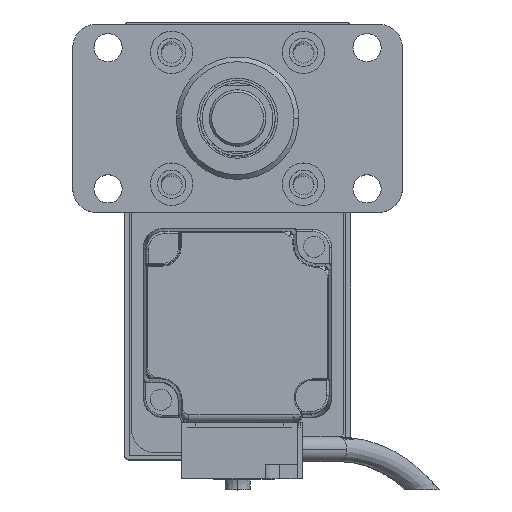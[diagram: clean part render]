
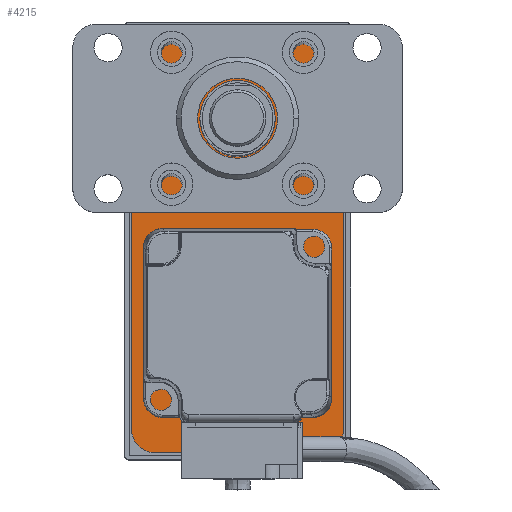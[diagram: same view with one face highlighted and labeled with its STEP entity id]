
A CAD part, top view. The second image highlights one B-rep face of the part: STEP entity #4215.
In plain terms, the highlighted planar face has unit normal (0, 0, 1).
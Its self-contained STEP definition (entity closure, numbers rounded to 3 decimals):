
#320 = ORIENTED_EDGE ( 'NONE', *, *, #24826, .T. ) ;
#420 = DIRECTION ( 'NONE',  ( 1., 0., 0. ) ) ;
#606 = LINE ( 'NONE', #11649, #11813 ) ;
#861 = VERTEX_POINT ( 'NONE', #15299 ) ;
#1416 = DIRECTION ( 'NONE',  ( -1., 0., 0. ) ) ;
#1513 = DIRECTION ( 'NONE',  ( 1., 0., 0. ) ) ;
#2352 = VERTEX_POINT ( 'NONE', #15862 ) ;
#3013 = EDGE_CURVE ( 'NONE', #861, #10172, #6103, .T. ) ;
#3320 = VECTOR ( 'NONE', #1416, 1000. ) ;
#3385 = EDGE_CURVE ( 'NONE', #10172, #15393, #14214, .T. ) ;
#3443 = CARTESIAN_POINT ( 'NONE',  ( -17.5, 40., 10. ) ) ;
#3725 = DIRECTION ( 'NONE',  ( 0., 0., 1. ) ) ;
#3823 = VERTEX_POINT ( 'NONE', #10676 ) ;
#4177 = EDGE_CURVE ( 'NONE', #15393, #2352, #10538, .T. ) ;
#4215 = ADVANCED_FACE ( 'NONE', ( #21647 ), #11199, .T. ) ;
#4299 = ORIENTED_EDGE ( 'NONE', *, *, #3013, .T. ) ;
#5300 = DIRECTION ( 'NONE',  ( 1., 0., 0. ) ) ;
#5330 = VECTOR ( 'NONE', #10151, 1000. ) ;
#5992 = ORIENTED_EDGE ( 'NONE', *, *, #21895, .T. ) ;
#6103 = LINE ( 'NONE', #16730, #13931 ) ;
#6377 = CARTESIAN_POINT ( 'NONE',  ( 17.5, -40., 10. ) ) ;
#6444 = DIRECTION ( 'NONE',  ( 1., 0., 0. ) ) ;
#6871 = DIRECTION ( 'NONE',  ( 1., 0., 0. ) ) ;
#6899 = ORIENTED_EDGE ( 'NONE', *, *, #8397, .T. ) ;
#7396 = DIRECTION ( 'NONE',  ( 0., 0., 1. ) ) ;
#7518 = CARTESIAN_POINT ( 'NONE',  ( -17.5, -45., 10. ) ) ;
#7538 = ORIENTED_EDGE ( 'NONE', *, *, #4177, .T. ) ;
#8131 = AXIS2_PLACEMENT_3D ( 'NONE', #24763, #3725, #1513 ) ;
#8396 = EDGE_LOOP ( 'NONE', ( #4299, #24635, #7538, #5992, #6899, #320, #20945, #13143 ) ) ;
#8397 = EDGE_CURVE ( 'NONE', #10756, #3823, #14090, .T. ) ;
#9095 = DIRECTION ( 'NONE',  ( 0., 1., 0. ) ) ;
#10151 = DIRECTION ( 'NONE',  ( 0., -1., 0. ) ) ;
#10172 = VERTEX_POINT ( 'NONE', #21986 ) ;
#10538 = LINE ( 'NONE', #22494, #3320 ) ;
#10570 = DIRECTION ( 'NONE',  ( 0., 0., 1. ) ) ;
#10676 = CARTESIAN_POINT ( 'NONE',  ( -22.5, -40., 10. ) ) ;
#10756 = VERTEX_POINT ( 'NONE', #20258 ) ;
#11199 = PLANE ( 'NONE',  #8131 ) ;
#11225 = CARTESIAN_POINT ( 'NONE',  ( 17.5, -45., 10. ) ) ;
#11595 = AXIS2_PLACEMENT_3D ( 'NONE', #3443, #7396, #5300 ) ;
#11649 = CARTESIAN_POINT ( 'NONE',  ( 22.5, -45., 10. ) ) ;
#11813 = VECTOR ( 'NONE', #420, 1000. ) ;
#13143 = ORIENTED_EDGE ( 'NONE', *, *, #21347, .T. ) ;
#13931 = VECTOR ( 'NONE', #9095, 1000. ) ;
#13985 = EDGE_CURVE ( 'NONE', #21579, #22868, #606, .T. ) ;
#14090 = LINE ( 'NONE', #21774, #5330 ) ;
#14116 = DIRECTION ( 'NONE',  ( 0., 0., 1. ) ) ;
#14214 = CIRCLE ( 'NONE', #21913, 5. ) ;
#14223 = AXIS2_PLACEMENT_3D ( 'NONE', #18363, #18690, #6871 ) ;
#15153 = CARTESIAN_POINT ( 'NONE',  ( 17.5, 45., 10. ) ) ;
#15299 = CARTESIAN_POINT ( 'NONE',  ( 22.5, -40., 10. ) ) ;
#15393 = VERTEX_POINT ( 'NONE', #15153 ) ;
#15862 = CARTESIAN_POINT ( 'NONE',  ( -17.5, 45., 10. ) ) ;
#16686 = CARTESIAN_POINT ( 'NONE',  ( 17.5, 40., 10. ) ) ;
#16730 = CARTESIAN_POINT ( 'NONE',  ( 22.5, -45., 10. ) ) ;
#18363 = CARTESIAN_POINT ( 'NONE',  ( -17.5, -40., 10. ) ) ;
#18690 = DIRECTION ( 'NONE',  ( 0., 0., 1. ) ) ;
#19879 = AXIS2_PLACEMENT_3D ( 'NONE', #6377, #14116, #6444 ) ;
#19939 = CIRCLE ( 'NONE', #19879, 5. ) ;
#20258 = CARTESIAN_POINT ( 'NONE',  ( -22.5, 40., 10. ) ) ;
#20516 = CIRCLE ( 'NONE', #11595, 5. ) ;
#20945 = ORIENTED_EDGE ( 'NONE', *, *, #13985, .T. ) ;
#21347 = EDGE_CURVE ( 'NONE', #22868, #861, #19939, .T. ) ;
#21579 = VERTEX_POINT ( 'NONE', #7518 ) ;
#21647 = FACE_OUTER_BOUND ( 'NONE', #8396, .T. ) ;
#21774 = CARTESIAN_POINT ( 'NONE',  ( -22.5, -45., 10. ) ) ;
#21895 = EDGE_CURVE ( 'NONE', #2352, #10756, #20516, .T. ) ;
#21913 = AXIS2_PLACEMENT_3D ( 'NONE', #16686, #10570, #23982 ) ;
#21986 = CARTESIAN_POINT ( 'NONE',  ( 22.5, 40., 10. ) ) ;
#22494 = CARTESIAN_POINT ( 'NONE',  ( 22.5, 45., 10. ) ) ;
#22868 = VERTEX_POINT ( 'NONE', #11225 ) ;
#23982 = DIRECTION ( 'NONE',  ( 1., 0., 0. ) ) ;
#24364 = CIRCLE ( 'NONE', #14223, 5. ) ;
#24635 = ORIENTED_EDGE ( 'NONE', *, *, #3385, .T. ) ;
#24763 = CARTESIAN_POINT ( 'NONE',  ( 0., 0., 10. ) ) ;
#24826 = EDGE_CURVE ( 'NONE', #3823, #21579, #24364, .T. ) ;
